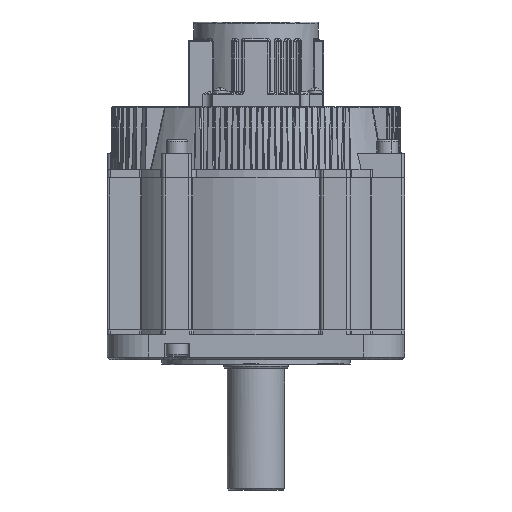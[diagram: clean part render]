
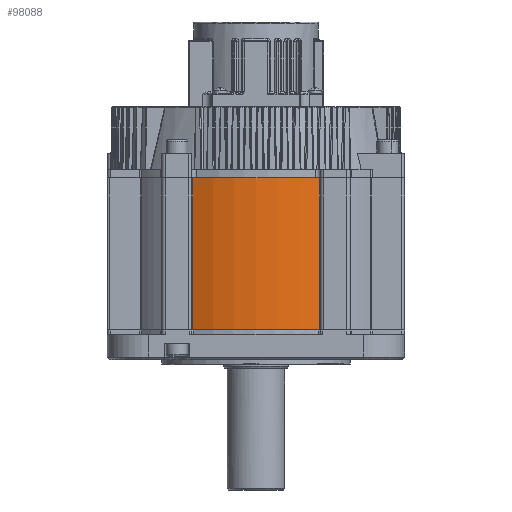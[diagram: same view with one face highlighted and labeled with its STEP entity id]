
A CAD part, front view. The second image highlights one B-rep face of the part: STEP entity #98088.
In plain terms, the highlighted cylindrical face has radius 90 mm (diameter 180 mm), a partial arc.
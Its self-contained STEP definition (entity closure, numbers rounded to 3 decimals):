
#3348 = CARTESIAN_POINT ( 'NONE',  ( -38.287, -81.45, 192. ) ) ;
#6153 = VERTEX_POINT ( 'NONE', #54431 ) ;
#7879 = CIRCLE ( 'NONE', #97415, 90. ) ;
#8292 = CARTESIAN_POINT ( 'NONE',  ( -38.287, -81.45, 192. ) ) ;
#11084 = CARTESIAN_POINT ( 'NONE',  ( 38.287, -81.45, 100. ) ) ;
#15384 = DIRECTION ( 'NONE',  ( 0., 0., 1. ) ) ;
#20376 = CARTESIAN_POINT ( 'NONE',  ( 0., 0., 100. ) ) ;
#23190 = ORIENTED_EDGE ( 'NONE', *, *, #87085, .F. ) ;
#23651 = VERTEX_POINT ( 'NONE', #35885 ) ;
#25079 = AXIS2_PLACEMENT_3D ( 'NONE', #26303, #86668, #55765 ) ;
#26303 = CARTESIAN_POINT ( 'NONE',  ( 0., 0., 192. ) ) ;
#28325 = DIRECTION ( 'NONE',  ( -1., 0., 0. ) ) ;
#29536 = VERTEX_POINT ( 'NONE', #11084 ) ;
#30626 = DIRECTION ( 'NONE',  ( 1., 0., 0. ) ) ;
#31140 = EDGE_CURVE ( 'NONE', #6153, #29536, #7879, .T. ) ;
#34095 = ORIENTED_EDGE ( 'NONE', *, *, #31140, .T. ) ;
#35885 = CARTESIAN_POINT ( 'NONE',  ( 38.287, -81.45, 192. ) ) ;
#41177 = LINE ( 'NONE', #8292, #93505 ) ;
#41443 = DIRECTION ( 'NONE',  ( 0., 0., -1. ) ) ;
#45969 = EDGE_CURVE ( 'NONE', #54706, #6153, #41177, .T. ) ;
#46560 = EDGE_CURVE ( 'NONE', #54706, #23651, #55376, .T. ) ;
#54431 = CARTESIAN_POINT ( 'NONE',  ( -38.287, -81.45, 100. ) ) ;
#54706 = VERTEX_POINT ( 'NONE', #3348 ) ;
#55376 = CIRCLE ( 'NONE', #82027, 90. ) ;
#55765 = DIRECTION ( 'NONE',  ( -1., 0., 0. ) ) ;
#58336 = CYLINDRICAL_SURFACE ( 'NONE', #25079, 90. ) ;
#60516 = CARTESIAN_POINT ( 'NONE',  ( 0., 0., 192. ) ) ;
#61394 = VECTOR ( 'NONE', #41443, 1000. ) ;
#61802 = ORIENTED_EDGE ( 'NONE', *, *, #46560, .F. ) ;
#64098 = CARTESIAN_POINT ( 'NONE',  ( 38.287, -81.45, 192. ) ) ;
#72763 = DIRECTION ( 'NONE',  ( 0., 0., 1. ) ) ;
#76836 = LINE ( 'NONE', #64098, #61394 ) ;
#80433 = EDGE_LOOP ( 'NONE', ( #92784, #34095, #23190, #61802 ) ) ;
#82027 = AXIS2_PLACEMENT_3D ( 'NONE', #60516, #15384, #30626 ) ;
#83299 = FACE_OUTER_BOUND ( 'NONE', #80433, .T. ) ;
#86668 = DIRECTION ( 'NONE',  ( 0., 0., -1. ) ) ;
#87085 = EDGE_CURVE ( 'NONE', #23651, #29536, #76836, .T. ) ;
#91542 = DIRECTION ( 'NONE',  ( 0., 0., -1. ) ) ;
#92784 = ORIENTED_EDGE ( 'NONE', *, *, #45969, .T. ) ;
#93505 = VECTOR ( 'NONE', #91542, 1000. ) ;
#97415 = AXIS2_PLACEMENT_3D ( 'NONE', #20376, #72763, #28325 ) ;
#98088 = ADVANCED_FACE ( 'NONE', ( #83299 ), #58336, .T. ) ;
